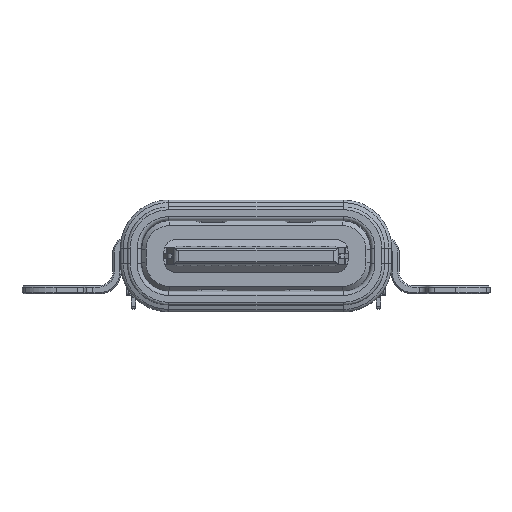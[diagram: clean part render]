
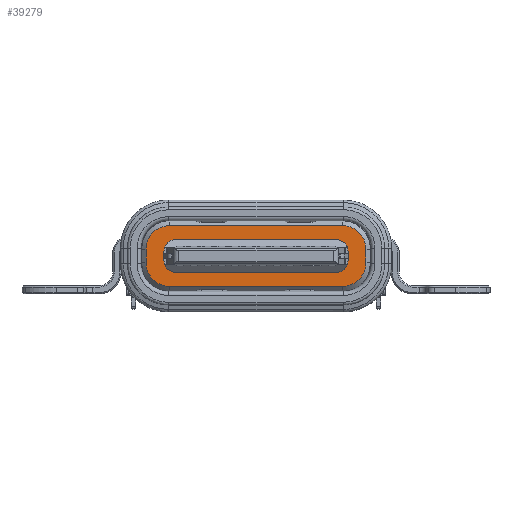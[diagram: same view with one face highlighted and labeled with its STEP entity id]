
A CAD part, front view. The second image highlights one B-rep face of the part: STEP entity #39279.
In plain terms, the highlighted planar face has unit normal (0, -1, 0) as drawn and (1, 0, 0) by its records, which use the part's own axes.
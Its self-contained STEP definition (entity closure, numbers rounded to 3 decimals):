
#32479=CARTESIAN_POINT('',(25.55,1.853,-21.145));
#32480=VERTEX_POINT('',#32479);
#32481=CARTESIAN_POINT('',(25.55,1.003,-21.995));
#32482=VERTEX_POINT('',#32481);
#32483=CARTESIAN_POINT('',(25.55,1.853,-21.145));
#32484=CARTESIAN_POINT('',(25.55,1.853,-21.368));
#32485=CARTESIAN_POINT('',(25.55,1.761,-21.589));
#32486=CARTESIAN_POINT('',(25.55,1.447,-21.903));
#32487=CARTESIAN_POINT('',(25.55,1.226,-21.995));
#32488=CARTESIAN_POINT('',(25.55,1.003,-21.995));
#32489=B_SPLINE_CURVE_WITH_KNOTS('',3,(#32483,#32484,#32485,#32486,#32487,#32488),.UNSPECIFIED.,.F.,.U.,
 (4,2,4),(0.0,0.684,1.369),.UNSPECIFIED.);
#32490=EDGE_CURVE('no 36241',#32480,#32482,#32489,.T.);
#32526=CARTESIAN_POINT('',(25.55,0.828,-21.995));
#32527=VERTEX_POINT('',#32526);
#32528=CARTESIAN_POINT('',(25.55,1.003,-21.995));
#32529=DIRECTION('',(0.,-1.0,0.));
#32530=VECTOR('',#32529,1.0);
#32531=LINE('',#32528,#32530);
#32532=EDGE_CURVE('no 46082',#32482,#32527,#32531,.T.);
#32534=CARTESIAN_POINT('',(25.55,0.503,-21.995));
#32535=VERTEX_POINT('',#32534);
#32536=CARTESIAN_POINT('',(25.55,0.828,-21.995));
#32537=DIRECTION('',(0.,-1.0,0.));
#32538=VECTOR('',#32537,1.0);
#32539=LINE('',#32536,#32538);
#32540=EDGE_CURVE('no 7325',#32527,#32535,#32539,.T.);
#32573=CARTESIAN_POINT('',(25.55,-0.347,-21.145));
#32574=VERTEX_POINT('',#32573);
#32575=CARTESIAN_POINT('',(25.55,-0.347,-21.145));
#32576=CARTESIAN_POINT('',(25.55,-0.347,-21.258));
#32577=CARTESIAN_POINT('',(25.55,-0.325,-21.366));
#32578=CARTESIAN_POINT('',(25.55,-0.239,-21.574));
#32579=CARTESIAN_POINT('',(25.55,-0.177,-21.667));
#32580=CARTESIAN_POINT('',(25.55,-0.019,-21.826));
#32581=CARTESIAN_POINT('',(25.55,0.074,-21.887));
#32582=CARTESIAN_POINT('',(25.55,0.282,-21.973));
#32583=CARTESIAN_POINT('',(25.55,0.39,-21.995));
#32584=CARTESIAN_POINT('',(25.55,0.503,-21.995));
#32585=B_SPLINE_CURVE_WITH_KNOTS('',3,(#32575,#32576,#32577,#32578,#32579,#32580,#32581,#32582,#32583,#32584),.UNSPECIFIED.,.F.,.U.,
 (4,2,2,2,4),(0.0,0.336,0.672,1.008,1.344),.UNSPECIFIED.);
#32586=EDGE_CURVE('no 47589',#32574,#32535,#32585,.T.);
#32635=CARTESIAN_POINT('',(25.55,0.828,-14.005));
#32636=VERTEX_POINT('',#32635);
#32637=CARTESIAN_POINT('',(25.55,1.003,-14.005));
#32638=VERTEX_POINT('',#32637);
#32639=CARTESIAN_POINT('',(25.55,0.828,-14.005));
#32640=DIRECTION('',(0.,1.0,0.));
#32641=VECTOR('',#32640,1.0);
#32642=LINE('',#32639,#32641);
#32643=EDGE_CURVE('no 1097',#32636,#32638,#32642,.T.);
#32653=CARTESIAN_POINT('',(25.55,0.503,-14.005));
#32654=VERTEX_POINT('',#32653);
#32661=CARTESIAN_POINT('',(25.55,0.503,-14.005));
#32662=DIRECTION('',(0.,1.0,0.));
#32663=VECTOR('',#32662,1.0);
#32664=LINE('',#32661,#32663);
#32665=EDGE_CURVE('no 21842',#32654,#32636,#32664,.T.);
#32678=CARTESIAN_POINT('',(25.55,1.853,-14.855));
#32679=VERTEX_POINT('',#32678);
#32680=CARTESIAN_POINT('',(25.55,1.003,-14.005));
#32681=CARTESIAN_POINT('',(25.55,1.226,-14.005));
#32682=CARTESIAN_POINT('',(25.55,1.447,-14.097));
#32683=CARTESIAN_POINT('',(25.55,1.761,-14.411));
#32684=CARTESIAN_POINT('',(25.55,1.853,-14.632));
#32685=CARTESIAN_POINT('',(25.55,1.853,-14.855));
#32686=B_SPLINE_CURVE_WITH_KNOTS('',3,(#32680,#32681,#32682,#32683,#32684,#32685),.UNSPECIFIED.,.F.,.U.,
 (4,2,4),(0.0,0.684,1.369),.UNSPECIFIED.);
#32687=EDGE_CURVE('no 53241',#32638,#32679,#32686,.T.);
#32753=CARTESIAN_POINT('',(25.55,-0.347,-14.855));
#32754=VERTEX_POINT('',#32753);
#32755=CARTESIAN_POINT('',(25.55,0.503,-14.005));
#32756=CARTESIAN_POINT('',(25.55,0.39,-14.005));
#32757=CARTESIAN_POINT('',(25.55,0.282,-14.027));
#32758=CARTESIAN_POINT('',(25.55,0.074,-14.113));
#32759=CARTESIAN_POINT('',(25.55,-0.019,-14.175));
#32760=CARTESIAN_POINT('',(25.55,-0.178,-14.333));
#32761=CARTESIAN_POINT('',(25.55,-0.239,-14.426));
#32762=CARTESIAN_POINT('',(25.55,-0.325,-14.634));
#32763=CARTESIAN_POINT('',(25.55,-0.347,-14.742));
#32764=CARTESIAN_POINT('',(25.55,-0.347,-14.855));
#32765=B_SPLINE_CURVE_WITH_KNOTS('',3,(#32755,#32756,#32757,#32758,#32759,#32760,#32761,#32762,#32763,#32764),.UNSPECIFIED.,.F.,.U.,
 (4,2,2,2,4),(0.0,0.336,0.672,1.008,1.344),.UNSPECIFIED.);
#32766=EDGE_CURVE('no 23721',#32654,#32754,#32765,.T.);
#35922=CARTESIAN_POINT('',(25.55,-0.347,-21.145));
#35923=DIRECTION('',(-0.0,-0.0,1.0));
#35924=VECTOR('',#35923,1.0);
#35925=LINE('',#35922,#35924);
#35926=EDGE_CURVE('no 42924',#32574,#32754,#35925,.T.);
#39163=CARTESIAN_POINT('',(25.55,1.353,-20.895));
#39164=VERTEX_POINT('',#39163);
#39165=CARTESIAN_POINT('',(25.55,0.903,-21.345));
#39166=VERTEX_POINT('',#39165);
#39167=CARTESIAN_POINT('',(25.55,1.353,-20.895));
#39168=CARTESIAN_POINT('',(25.55,1.353,-21.014));
#39169=CARTESIAN_POINT('',(25.55,1.305,-21.129));
#39170=CARTESIAN_POINT('',(25.55,1.137,-21.297));
#39171=CARTESIAN_POINT('',(25.55,1.023,-21.345));
#39172=CARTESIAN_POINT('',(25.55,0.903,-21.345));
#39173=B_SPLINE_CURVE_WITH_KNOTS('',3,(#39167,#39168,#39169,#39170,#39171,#39172),.UNSPECIFIED.,.F.,.U.,
 (4,2,4),(0.0,0.5,1.0),.UNSPECIFIED.);
#39174=EDGE_CURVE('no 12441',#39164,#39166,#39173,.T.);
#39175=ORIENTED_EDGE('no 43684',*,*,#39174,.T.);
#39176=CARTESIAN_POINT('',(25.55,0.828,-21.345));
#39177=VERTEX_POINT('',#39176);
#39178=CARTESIAN_POINT('',(25.55,0.903,-21.345));
#39179=DIRECTION('',(0.,-1.0,0.0));
#39180=VECTOR('',#39179,1.0);
#39181=LINE('',#39178,#39180);
#39182=EDGE_CURVE('no 53908',#39166,#39177,#39181,.T.);
#39183=ORIENTED_EDGE('no 15394',*,*,#39182,.T.);
#39184=CARTESIAN_POINT('',(25.55,0.603,-21.345));
#39185=VERTEX_POINT('',#39184);
#39186=CARTESIAN_POINT('',(25.55,0.828,-21.345));
#39187=DIRECTION('',(0.,-1.0,0.0));
#39188=VECTOR('',#39187,1.0);
#39189=LINE('',#39186,#39188);
#39190=EDGE_CURVE('no 46240',#39177,#39185,#39189,.T.);
#39191=ORIENTED_EDGE('no 24883',*,*,#39190,.T.);
#39192=CARTESIAN_POINT('',(25.55,0.153,-20.895));
#39193=VERTEX_POINT('',#39192);
#39194=CARTESIAN_POINT('',(25.55,0.603,-21.345));
#39195=CARTESIAN_POINT('',(25.55,0.484,-21.345));
#39196=CARTESIAN_POINT('',(25.55,0.369,-21.297));
#39197=CARTESIAN_POINT('',(25.55,0.201,-21.129));
#39198=CARTESIAN_POINT('',(25.55,0.153,-21.015));
#39199=CARTESIAN_POINT('',(25.55,0.153,-20.895));
#39200=B_SPLINE_CURVE_WITH_KNOTS('',3,(#39194,#39195,#39196,#39197,#39198,#39199),.UNSPECIFIED.,.F.,.U.,
 (4,2,4),(0.0,0.5,1.0),.UNSPECIFIED.);
#39201=EDGE_CURVE('no 29516',#39185,#39193,#39200,.T.);
#39202=ORIENTED_EDGE('no 30161',*,*,#39201,.T.);
#39203=CARTESIAN_POINT('',(25.55,0.153,-15.105));
#39204=VERTEX_POINT('',#39203);
#39205=CARTESIAN_POINT('',(25.55,0.153,-20.895));
#39206=DIRECTION('',(0.0,0.0,1.0));
#39207=VECTOR('',#39206,1.0);
#39208=LINE('',#39205,#39207);
#39209=EDGE_CURVE('no 22091',#39193,#39204,#39208,.T.);
#39210=ORIENTED_EDGE('no 26008',*,*,#39209,.T.);
#39211=CARTESIAN_POINT('',(25.55,0.603,-14.655));
#39212=VERTEX_POINT('',#39211);
#39213=CARTESIAN_POINT('',(25.55,0.153,-15.105));
#39214=CARTESIAN_POINT('',(25.55,0.153,-14.986));
#39215=CARTESIAN_POINT('',(25.55,0.201,-14.871));
#39216=CARTESIAN_POINT('',(25.55,0.369,-14.703));
#39217=CARTESIAN_POINT('',(25.55,0.483,-14.655));
#39218=CARTESIAN_POINT('',(25.55,0.603,-14.655));
#39219=B_SPLINE_CURVE_WITH_KNOTS('',3,(#39213,#39214,#39215,#39216,#39217,#39218),.UNSPECIFIED.,.F.,.U.,
 (4,2,4),(0.0,0.5,1.0),.UNSPECIFIED.);
#39220=EDGE_CURVE('no 47195',#39204,#39212,#39219,.T.);
#39221=ORIENTED_EDGE('no 37303',*,*,#39220,.T.);
#39222=CARTESIAN_POINT('',(25.55,0.828,-14.655));
#39223=VERTEX_POINT('',#39222);
#39224=CARTESIAN_POINT('',(25.55,0.603,-14.655));
#39225=DIRECTION('',(0.,1.0,-0.0));
#39226=VECTOR('',#39225,1.0);
#39227=LINE('',#39224,#39226);
#39228=EDGE_CURVE('no 7734',#39212,#39223,#39227,.T.);
#39229=ORIENTED_EDGE('no 35469',*,*,#39228,.T.);
#39230=CARTESIAN_POINT('',(25.55,0.903,-14.655));
#39231=VERTEX_POINT('',#39230);
#39232=CARTESIAN_POINT('',(25.55,0.828,-14.655));
#39233=DIRECTION('',(0.,1.0,-0.0));
#39234=VECTOR('',#39233,1.0);
#39235=LINE('',#39232,#39234);
#39236=EDGE_CURVE('no 21389',#39223,#39231,#39235,.T.);
#39237=ORIENTED_EDGE('no 13881',*,*,#39236,.T.);
#39238=CARTESIAN_POINT('',(25.55,1.353,-15.105));
#39239=VERTEX_POINT('',#39238);
#39240=CARTESIAN_POINT('',(25.55,0.903,-14.655));
#39241=CARTESIAN_POINT('',(25.55,1.022,-14.655));
#39242=CARTESIAN_POINT('',(25.55,1.137,-14.703));
#39243=CARTESIAN_POINT('',(25.55,1.305,-14.871));
#39244=CARTESIAN_POINT('',(25.55,1.353,-14.985));
#39245=CARTESIAN_POINT('',(25.55,1.353,-15.105));
#39246=B_SPLINE_CURVE_WITH_KNOTS('',3,(#39240,#39241,#39242,#39243,#39244,#39245),.UNSPECIFIED.,.F.,.U.,
 (4,2,4),(0.0,0.5,1.0),.UNSPECIFIED.);
#39247=EDGE_CURVE('no 15255',#39231,#39239,#39246,.T.);
#39248=ORIENTED_EDGE('no 9378',*,*,#39247,.T.);
#39249=CARTESIAN_POINT('',(25.55,1.353,-15.105));
#39250=DIRECTION('',(0.0,-0.0,-1.0));
#39251=VECTOR('',#39250,1.0);
#39252=LINE('',#39249,#39251);
#39253=EDGE_CURVE('no 14265',#39239,#39164,#39252,.T.);
#39254=ORIENTED_EDGE('no 38711',*,*,#39253,.T.);
#39255=EDGE_LOOP('',(#39175,#39183,#39191,#39202,#39210,#39221,#39229,#39237,#39248,#39254));
#39256=FACE_BOUND('',#39255,.T.);
#39257=ORIENTED_EDGE('no 37478',*,*,#35926,.F.);
#39258=ORIENTED_EDGE('no 22692',*,*,#32586,.T.);
#39259=ORIENTED_EDGE('no 16036',*,*,#32540,.F.);
#39260=ORIENTED_EDGE('no 43631',*,*,#32532,.F.);
#39261=ORIENTED_EDGE('no 42418',*,*,#32490,.F.);
#39262=CARTESIAN_POINT('',(25.55,1.853,-21.145));
#39263=DIRECTION('',(-0.0,-0.0,1.0));
#39264=VECTOR('',#39263,1.0);
#39265=LINE('',#39262,#39264);
#39266=EDGE_CURVE('no 14538',#32480,#32679,#39265,.T.);
#39267=ORIENTED_EDGE('no 4153',*,*,#39266,.T.);
#39268=ORIENTED_EDGE('no 27667',*,*,#32687,.F.);
#39269=ORIENTED_EDGE('no 51543',*,*,#32643,.F.);
#39270=ORIENTED_EDGE('no 32259',*,*,#32665,.F.);
#39271=ORIENTED_EDGE('no 7256',*,*,#32766,.T.);
#39272=EDGE_LOOP('',(#39257,#39258,#39259,#39260,#39261,#39267,#39268,#39269,#39270,#39271));
#39273=FACE_OUTER_BOUND('',#39272,.T.);
#39274=CARTESIAN_POINT('',(25.55,-0.347,-14.005));
#39275=DIRECTION('',(1.0,0.0,0.0));
#39276=DIRECTION('',(-0.0,1.0,0.0));
#39277=AXIS2_PLACEMENT_3D('',#39274,#39275,#39276);
#39278=PLANE('',#39277);
#39279=ADVANCED_FACE('no 51785',(#39256,#39273),#39278,.T.);
